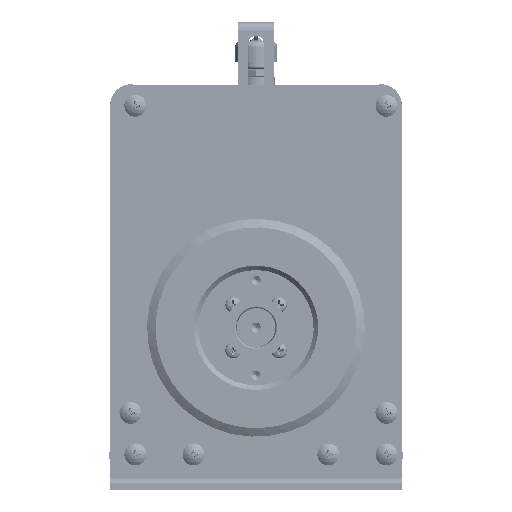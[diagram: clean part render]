
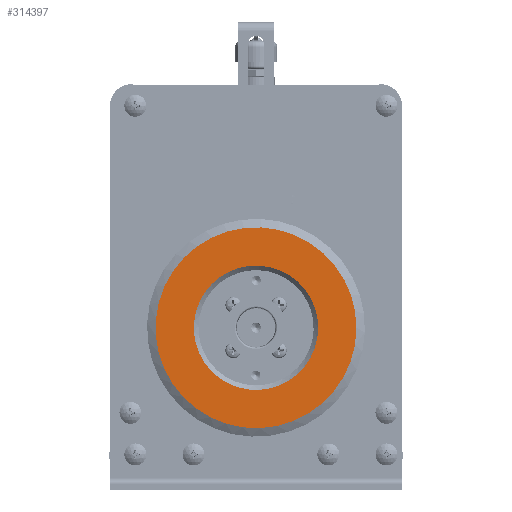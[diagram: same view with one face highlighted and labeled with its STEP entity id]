
A CAD part, front view. The second image highlights one B-rep face of the part: STEP entity #314397.
In plain terms, the highlighted planar face has unit normal (0, -1, 0).
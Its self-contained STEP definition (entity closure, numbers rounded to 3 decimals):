
#9944=PLANE('',#330773);
#125320=ORIENTED_EDGE('',*,*,#161963,.F.);
#125321=ORIENTED_EDGE('',*,*,#161964,.T.);
#161963=EDGE_CURVE('',#185530,#185530,#191446,.T.);
#161964=EDGE_CURVE('',#185531,#185531,#191447,.T.);
#185530=VERTEX_POINT('',#576770);
#185531=VERTEX_POINT('',#576773);
#191446=CIRCLE('',#330772,32.233);
#191447=CIRCLE('',#330774,52.052);
#204527=EDGE_LOOP('',(#125320));
#204528=EDGE_LOOP('',(#125321));
#218227=FACE_BOUND('',#204527,.T.);
#218228=FACE_BOUND('',#204528,.T.);
#314397=ADVANCED_FACE('',(#218227,#218228),#9944,.T.);
#330772=AXIS2_PLACEMENT_3D('',#576769,#386537,#386538);
#330773=AXIS2_PLACEMENT_3D('',#576771,#386539,#386540);
#330774=AXIS2_PLACEMENT_3D('',#576772,#386541,#386542);
#386537=DIRECTION('',(0.,-1.,0.));
#386538=DIRECTION('',(1.,0.,0.));
#386539=DIRECTION('',(0.,-1.,0.));
#386540=DIRECTION('',(0.383,0.,0.924));
#386541=DIRECTION('',(0.,-1.,0.));
#386542=DIRECTION('',(1.,0.,0.));
#576769=CARTESIAN_POINT('',(0.,-4.826,0.));
#576770=CARTESIAN_POINT('',(32.233,-4.826,0.));
#576771=CARTESIAN_POINT('',(30.987,-4.826,-74.81));
#576772=CARTESIAN_POINT('',(0.,-4.826,0.));
#576773=CARTESIAN_POINT('',(52.052,-4.826,0.));
